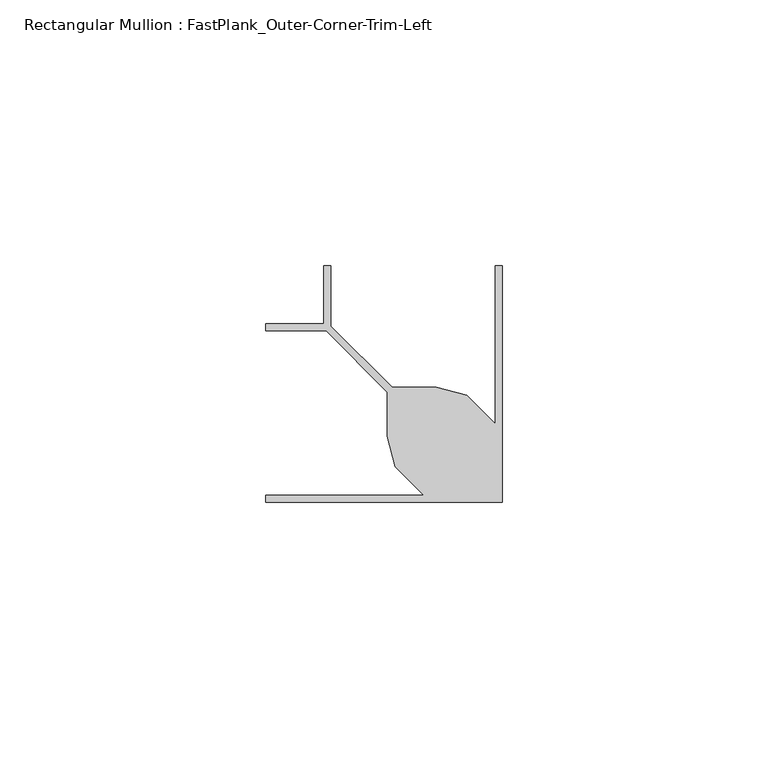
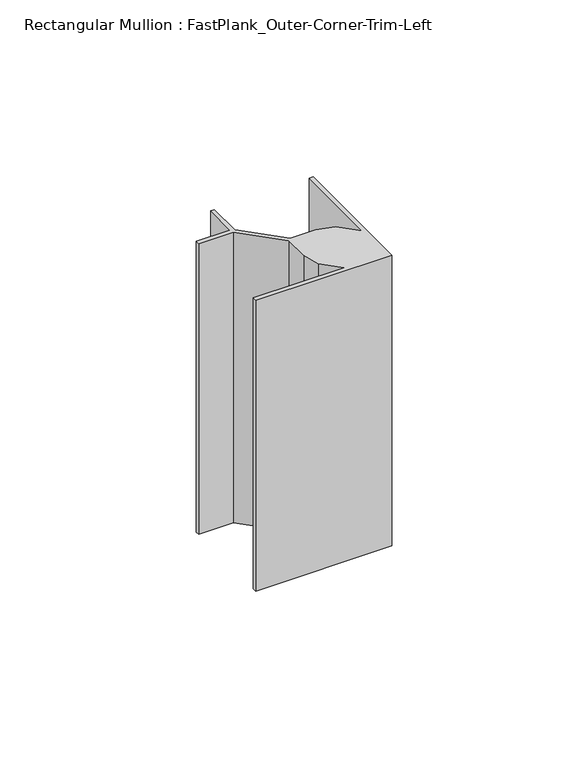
"""IFC4 building model written with IfcOpenShell, lengths in millimetres: member geometry, Rectangular Mullion : FastPlank_Outer-Corner-Trim-Left."""

from ifc_helpers import new_model, si_unit, frame, origin, place, context, project, spatial, polyline, outline, extrude, source, transform, mapped, element, save


def rectangular_mullion_fastplank_outer_corner_trim_left_5a9d3dd4(model_context):
    return source(origin(), model_context, "Body", "SweptSolid", [
        extrude(outline(polyline([(0.0, 22.7926044), (0.0, -21.6481418), (-44.4407461, -21.6481418), (-44.4407461, -20.3481444), (-14.7093055, -20.3481444), (-20.0837776, -14.9736723), (-21.6227418, -9.2301797), (-21.6227418, -0.944637), (-33.1191726, 10.5517938), (-44.4407461, 10.5517938), (-44.4407461, 11.8517912), (-33.499933, 11.8517912), (-33.499933, 22.7926044), (-32.1999356, 22.7926044), (-32.1999356, 11.4710308), (-20.7035048, -0.0254), (-12.417962, -0.0254), (-6.6744694, -1.5643642), (-1.2999974, -6.9388362), (-1.2999974, 22.7926044), (0.0, 22.7926044)])), frame((0.0, 0.0, -100.2999811), z_axis=(0.0, 0.0, 1.0), x_axis=(1.0, 0.0, 0.0)), (0.0, 0.0, 1.0), 100.2999811),
    ])


if __name__ == "__main__":
    model = new_model("IFC4")
    model_context = context("Model", 3, world=origin())
    ifc_project = project(units=[si_unit("LENGTHUNIT", "METRE", prefix="MILLI")], contexts=[model_context])
    site = spatial("IfcSite", under=ifc_project)
    building = spatial("IfcBuilding", under=site)
    placement = place(None, origin())
    rectangular_mullion_fastplank_outer_corner_trim_left_shape = rectangular_mullion_fastplank_outer_corner_trim_left_5a9d3dd4(model_context)
    element("IfcMember", 1, ObjectType="Rectangular Mullion : FastPlank_Outer-Corner-Trim-Left", at=placement, inside=building, context=model_context, shape_type="MappedRepresentation", body=[
        mapped(rectangular_mullion_fastplank_outer_corner_trim_left_shape, transform((0.0, 0.0, 0.0), x_axis=(1.0, 0.0, 0.0), y_axis=(0.0, 1.0, 0.0), z_axis=(0.0, 0.0, 1.0))),
    ])
    save(model, "model.ifc")
